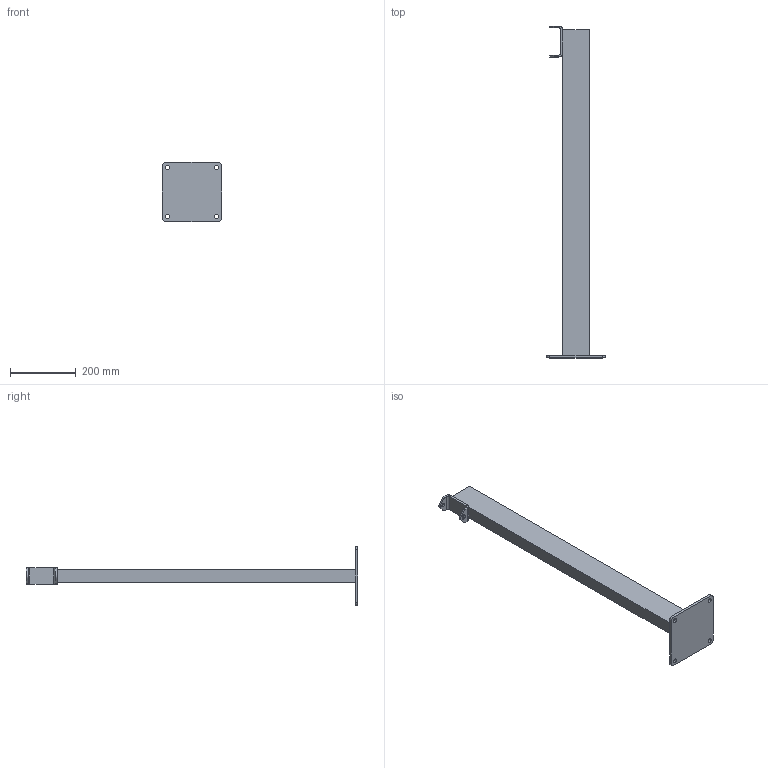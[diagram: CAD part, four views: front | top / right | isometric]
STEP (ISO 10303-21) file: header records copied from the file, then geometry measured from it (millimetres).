
FILE_DESCRIPTION((''),'2;1');
FILE_NAME('PTX1000','2018-10-29T',('Tomas Bellgran'),(''),'CREO PARAMETRIC BY PTC INC, 2016130','CREO PARAMETRIC BY PTC INC, 2016130','');
FILE_SCHEMA(('AUTOMOTIVE_DESIGN { 1 0 10303 214 1 1 1 1 }'));
Length unit declared in the file: millimetre
Products named in the file (1): PTX1000
Bounding box: 180 x 1012 x 180 mm (x, y, z)
Volume: 3469563.3 mm3; surface area: 319250.9 mm2
Topology: 1 solids, 1 shells, 50 faces, 137 edges, 90 vertices
Faces by surface type: cylinder 26, plane 24
Entity records: 1763 total; most frequent: DIRECTION 289, CARTESIAN_POINT 279, ORIENTED_EDGE 274, EDGE_CURVE 137, AXIS2_PLACEMENT_3D 102, VERTEX_POINT 90, VECTOR 85, LINE 85
